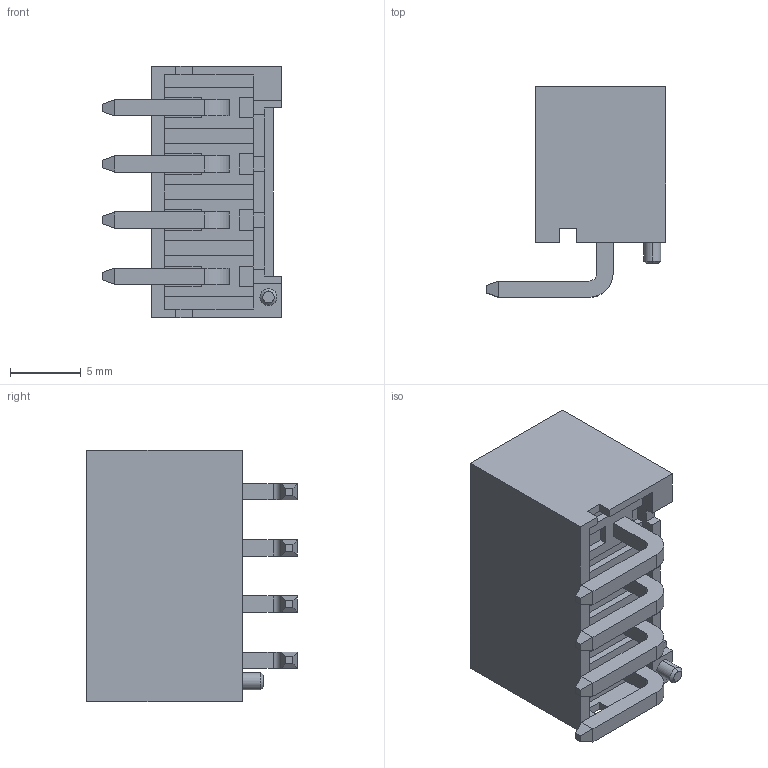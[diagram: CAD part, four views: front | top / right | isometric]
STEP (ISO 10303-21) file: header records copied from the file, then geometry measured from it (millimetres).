
FILE_DESCRIPTION (( 'STEP AP214' ), '1' );
FILE_NAME ('HC-VHH-4AW-G-05 (3.96 单排 高弯针 带柱 座高11mm-HCTL).STEP', '2025-05-16T03:18:59', ( '' ), ( '' ), 'SwSTEP 2.0', 'SolidWorks 2022', '' );
FILE_SCHEMA (( 'AUTOMOTIVE_DESIGN' ));
Length unit declared in the file: millimetre
Products named in the file (1): HC-VHH-4AW-G-05 (3.96 单排 高弯针 带柱 座高11mm-HCTL)
Bounding box: 12.7 x 14.87 x 17.72 mm (x, y, z)
Volume: 817.5 mm3; surface area: 1709 mm2
Topology: 1 solids, 1 shells, 199 faces, 526 edges, 338 vertices
Faces by surface type: plane 187, cylinder 10, cone 2
Entity records: 6032 total; most frequent: CARTESIAN_POINT 1064, ORIENTED_EDGE 1052, DIRECTION 948, EDGE_CURVE 526, LINE 504, VECTOR 504, VERTEX_POINT 338, AXIS2_PLACEMENT_3D 222
